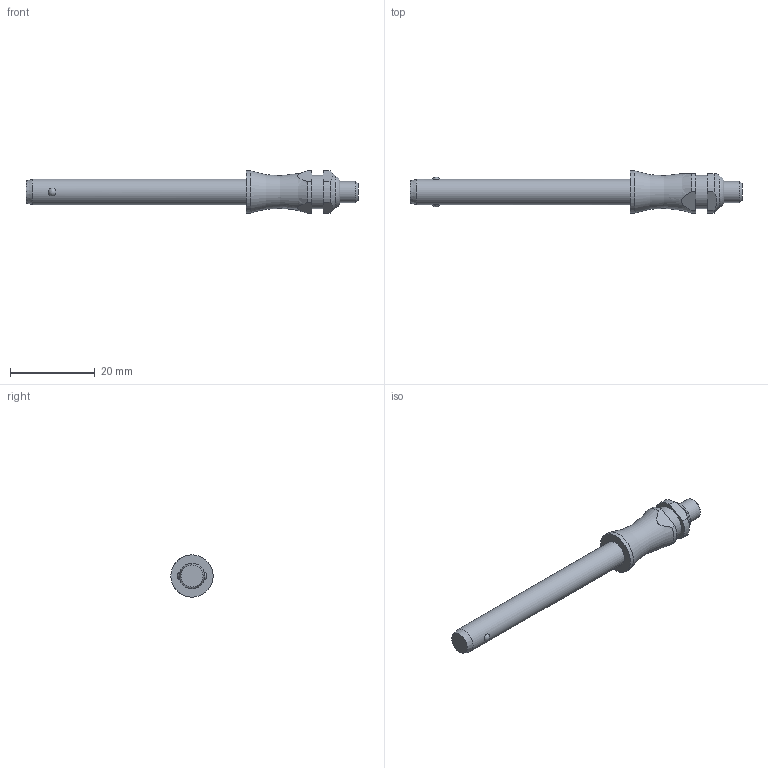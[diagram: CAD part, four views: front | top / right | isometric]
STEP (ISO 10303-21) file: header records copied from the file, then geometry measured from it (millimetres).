
FILE_DESCRIPTION( ( 'STEP AP203' ), '1' );
FILE_NAME( 'C:/Temp/Ganter_Step_05_03_2020/data/3_1/gn113_3/Stainless Steel-Ball lock pin GN 113.3-6-45 (deactivated).stp', '2020-03-12T08:18:19', ( 'License CC BY-ND 4.0' ), ( 'CADENAS' ), ' ', 'PARTsolutions', ' ' );
FILE_SCHEMA( ( 'CONFIG_CONTROL_DESIGN' ) );
Length unit declared in the file: millimetre
Products named in the file (1): _Stainless Steel-Ball lock pin GN 113.3-6-45 (deactivated)
Bounding box: 78.3 x 10 x 10 mm (x, y, z)
Volume: 2807 mm3; surface area: 1800.1 mm2
Topology: 1 solids, 1 shells, 29 faces, 61 edges, 40 vertices
Faces by surface type: plane 12, cylinder 10, cone 3, torus 2, sphere 2
Full cylindrical faces by diameter (mm): 5 x1, 6 x1, 7.9 x1, 10 x1
Entity records: 918 total; most frequent: CARTESIAN_POINT 288, DIRECTION 126, ORIENTED_EDGE 100, AXIS2_PLACEMENT_3D 54, EDGE_CURVE 50, EDGE_LOOP 44, VERTEX_POINT 38, FACE_OUTER_BOUND 35
